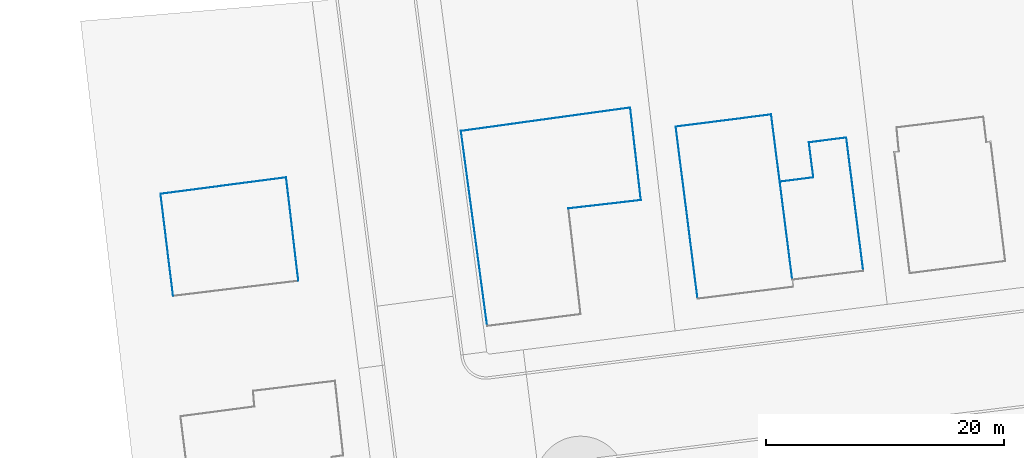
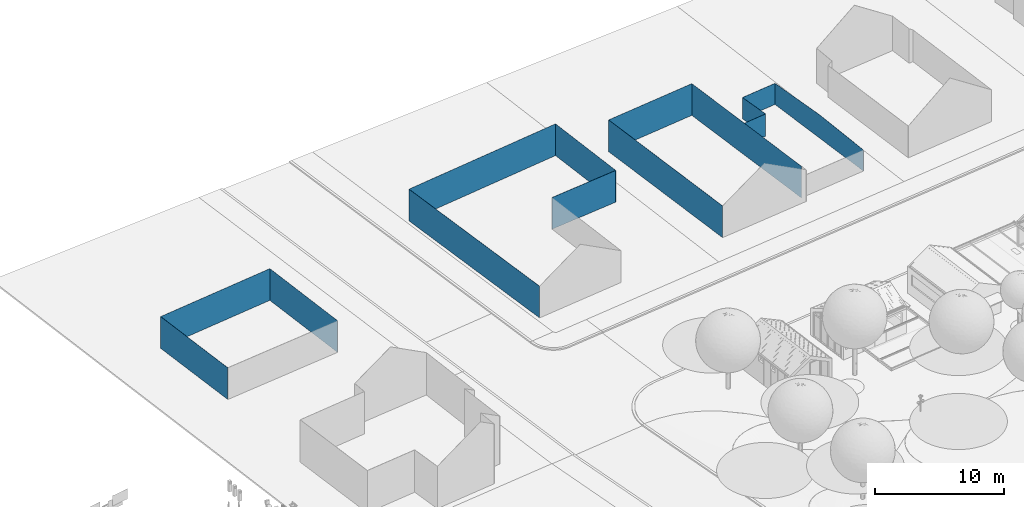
# One storey, part 34 of 75: 14 walls.
"""IFC2X3 building model written with IfcOpenShell, lengths in metres."""

from ifc_helpers import new_model, entity, si_unit, converted_unit, derived_unit, direction, frame, frame_2d, origin, place, context, subcontext, project, spatial, polyline, rectangle, outline, extrude, clip, bounded_halfspace, material, layer, layer_set, layer_usage, type_object, element, save


model = new_model("IFC2X3")

# Units and contexts
model_context = context("Model", 3, precision=1e-05, world=origin(), true_north=direction((6.123031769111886e-17, 1.0)))
body_context = subcontext(model_context, "Body", "Model", "MODEL_VIEW")
ifc_project = project(units=[si_unit("LENGTHUNIT", "METRE"), si_unit("AREAUNIT", "SQUARE_METRE"), si_unit("VOLUMEUNIT", "CUBIC_METRE"), converted_unit("PLANEANGLEUNIT", "DEGREE", entity("IfcRatioMeasure", 0.017453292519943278), si_unit("PLANEANGLEUNIT", "RADIAN"), dimensions=[0, 0, 0, 0, 0, 0, 0]), si_unit("MASSUNIT", "GRAM", prefix="KILO"), derived_unit("MASSDENSITYUNIT", [(si_unit("MASSUNIT", "GRAM", prefix="KILO"), 1), (si_unit("LENGTHUNIT", "METRE"), -3)]), derived_unit("IONCONCENTRATIONUNIT", [(si_unit("MASSUNIT", "GRAM", prefix="KILO"), 1), (si_unit("LENGTHUNIT", "METRE"), -3)]), derived_unit("MOMENTOFINERTIAUNIT", [(si_unit("LENGTHUNIT", "METRE"), 4)]), si_unit("TIMEUNIT", "SECOND"), si_unit("FREQUENCYUNIT", "HERTZ"), si_unit("THERMODYNAMICTEMPERATUREUNIT", "DEGREE_CELSIUS"), derived_unit("THERMALTRANSMITTANCEUNIT", [(si_unit("MASSUNIT", "GRAM", prefix="KILO"), 1), (si_unit("THERMODYNAMICTEMPERATUREUNIT", "KELVIN"), -1), (si_unit("TIMEUNIT", "SECOND"), -3)]), derived_unit("THERMALCONDUCTANCEUNIT", [(si_unit("MASSUNIT", "GRAM", prefix="KILO"), 1), (si_unit("THERMODYNAMICTEMPERATUREUNIT", "KELVIN"), -1), (si_unit("TIMEUNIT", "SECOND"), -3), (si_unit("LENGTHUNIT", "METRE"), 1)]), derived_unit("VOLUMETRICFLOWRATEUNIT", [(si_unit("LENGTHUNIT", "METRE"), 3), (si_unit("TIMEUNIT", "SECOND"), -1)]), derived_unit("MASSFLOWRATEUNIT", [(si_unit("MASSUNIT", "GRAM", prefix="KILO"), 1), (si_unit("TIMEUNIT", "SECOND"), -1)]), derived_unit("ROTATIONALFREQUENCYUNIT", [(si_unit("TIMEUNIT", "SECOND"), -1)]), si_unit("ELECTRICCURRENTUNIT", "AMPERE"), si_unit("ELECTRICVOLTAGEUNIT", "VOLT"), si_unit("POWERUNIT", "WATT"), si_unit("FORCEUNIT", "NEWTON", prefix="KILO"), si_unit("ILLUMINANCEUNIT", "LUX"), si_unit("LUMINOUSFLUXUNIT", "LUMEN"), si_unit("LUMINOUSINTENSITYUNIT", "CANDELA"), derived_unit("USERDEFINED", [(si_unit("MASSUNIT", "GRAM", prefix="KILO"), -1), (si_unit("LENGTHUNIT", "METRE"), -2), (si_unit("TIMEUNIT", "SECOND"), 3), (si_unit("LUMINOUSFLUXUNIT", "LUMEN"), 1)]), derived_unit("USERDEFINED", [(si_unit("MASSUNIT", "GRAM", prefix="KILO"), 1), (si_unit("TIMEUNIT", "SECOND"), -3), (si_unit("LENGTHUNIT", "METRE"), 3), (si_unit("ELECTRICCURRENTUNIT", "AMPERE"), -2)]), derived_unit("SOUNDPOWERUNIT", [(si_unit("MASSUNIT", "GRAM", prefix="KILO"), 1), (si_unit("TIMEUNIT", "SECOND"), -3), (si_unit("LENGTHUNIT", "METRE"), 2)]), derived_unit("SOUNDPRESSUREUNIT", [(si_unit("MASSUNIT", "GRAM", prefix="KILO"), 1), (si_unit("LENGTHUNIT", "METRE"), -1), (si_unit("TIMEUNIT", "SECOND"), -2)]), derived_unit("LINEARVELOCITYUNIT", [(si_unit("LENGTHUNIT", "METRE"), 1), (si_unit("TIMEUNIT", "SECOND"), -1)]), si_unit("PRESSUREUNIT", "PASCAL"), derived_unit("USERDEFINED", [(si_unit("MASSUNIT", "GRAM", prefix="KILO"), 1), (si_unit("LENGTHUNIT", "METRE"), -2), (si_unit("TIMEUNIT", "SECOND"), -2)]), derived_unit("LINEARFORCEUNIT", [(si_unit("MASSUNIT", "GRAM", prefix="KILO"), 1), (si_unit("TIMEUNIT", "SECOND"), -2)]), derived_unit("PLANARFORCEUNIT", [(si_unit("MASSUNIT", "GRAM", prefix="KILO"), 1), (si_unit("LENGTHUNIT", "METRE"), -1), (si_unit("TIMEUNIT", "SECOND"), -2)]), derived_unit("SPECIFICHEATCAPACITYUNIT", [(si_unit("THERMODYNAMICTEMPERATUREUNIT", "KELVIN"), -1), (si_unit("LENGTHUNIT", "METRE"), 2), (si_unit("TIMEUNIT", "SECOND"), -2)]), derived_unit("HEATINGVALUEUNIT", [(si_unit("LENGTHUNIT", "METRE"), 2), (si_unit("TIMEUNIT", "SECOND"), -2)]), derived_unit("VAPORPERMEABILITYUNIT", [(si_unit("LENGTHUNIT", "METRE"), -1), (si_unit("TIMEUNIT", "SECOND"), 1)]), derived_unit("DYNAMICVISCOSITYUNIT", [(si_unit("MASSUNIT", "GRAM", prefix="KILO"), 1), (si_unit("TIMEUNIT", "SECOND"), -1), (si_unit("LENGTHUNIT", "METRE"), -1)]), derived_unit("THERMALEXPANSIONCOEFFICIENTUNIT", [(si_unit("THERMODYNAMICTEMPERATUREUNIT", "KELVIN"), -1)]), derived_unit("MODULUSOFELASTICITYUNIT", [(si_unit("MASSUNIT", "GRAM", prefix="KILO"), 1), (si_unit("LENGTHUNIT", "METRE"), -1), (si_unit("TIMEUNIT", "SECOND"), -2)]), derived_unit("ISOTHERMALMOISTURECAPACITYUNIT", [(si_unit("LENGTHUNIT", "METRE"), 3), (si_unit("MASSUNIT", "GRAM", prefix="KILO"), -1)]), derived_unit("MOISTUREDIFFUSIVITYUNIT", [(si_unit("TIMEUNIT", "SECOND"), -1), (si_unit("LENGTHUNIT", "METRE"), 2)])], contexts=[model_context])

# Site, building, storey
site_placement = place(None, origin())
site = spatial("IfcSite", under=ifc_project, at=site_placement, Name="Default", CompositionType="ELEMENT")
building_placement = place(site_placement, origin())
building = spatial("IfcBuilding", under=site, at=building_placement, Name="Projeto", CompositionType="ELEMENT")
storey_placement = place(building_placement, origin())
storey = spatial("IfcBuildingStorey", under=building, at=storey_placement, Name="Nível 1", CompositionType="ELEMENT", Elevation=0.0)

# Walls
ifc_material = material(Name="Metal")
ifc_layer = layer(ifc_material, 0.01)
ifc_layer_set = layer_set([ifc_layer], Name="Parede básica:JA_Aluminio")
ifc_layer_usage = layer_usage(ifc_layer_set, "AXIS2", "NEGATIVE", 0.005)
wall_type = type_object("IfcWallType", Name="Parede básica:JA_Aluminio", PredefinedType="STANDARD", material=ifc_layer_set)
wall_1_placement = place(storey_placement, frame((-5.1115404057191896, 63.52451262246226, -2.6), z_axis=(0.0, 0.0, 1.0), x_axis=(0.12649137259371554, -0.9919677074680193, 0.0)))
element("IfcWallStandardCase", 1, at=wall_1_placement, inside=storey, type_object=wall_type, material=ifc_layer_usage, Name="Parede básica:JA_Aluminio", ObjectType="Parede básica:JA_Aluminio", context=body_context, shape_type="Clipping", body=[
    clip(extrude(outline(polyline([(14.026625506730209, -0.005000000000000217), (14.02665717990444, 0.004999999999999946), (14.016657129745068, 0.005000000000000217), (5.703756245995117, 0.005000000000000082), (5.693756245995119, 0.004999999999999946), (0.0, 0.004999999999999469), (0.0, -0.00500000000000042), (14.026625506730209, -0.005000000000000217)])), origin(), (0.0, 0.0, 1.0), 3.0057735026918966), bounded_halfspace(frame((0.0, -0.004999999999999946, 3.0057735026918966), z_axis=(0.0, 0.5000000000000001, 0.8660254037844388), x_axis=(-1.0, 0.0, 0.0)), False, frame((0.0, -0.004999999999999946, 3.0057735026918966)), polyline([(0.0, 0.0), (14.026625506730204, 0.0), (14.026657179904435, 0.009999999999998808), (0.0, 0.009999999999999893), (0.0, 0.0)]))),
])
wall_2_placement = place(storey_placement, frame((-4.385737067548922, 57.8721629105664, -2.6), z_axis=(0.0, 0.0, 1.0), x_axis=(0.9919677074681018, 0.1264913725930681, 0.0)))
element("IfcWallStandardCase", 2, at=wall_2_placement, inside=storey, type_object=wall_type, material=ifc_layer_usage, Name="Parede básica:JA_Aluminio", ObjectType="Parede básica:JA_Aluminio", context=body_context, shape_type="Clipping", body=[
    clip(extrude(rectangle(XDim=2.8520364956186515, YDim=0.009999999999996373, at=frame_2d((1.4260182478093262, 2.6150956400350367e-16), x_axis=(-1.0, 0.0))), origin(), (0.0, 0.0, 1.0), 2.1041469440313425), bounded_halfspace(frame((0.0, -0.005000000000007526, 2.104146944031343), z_axis=(0.0, 0.034899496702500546, 0.9993908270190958), x_axis=(-1.0, 0.0, 0.0)), False, frame((0.0, -0.005000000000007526, 2.104146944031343)), polyline([(0.0, 0.0), (2.8520364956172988, 0.0), (2.852036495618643, 0.009999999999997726), (2.8420364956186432, 0.009999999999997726), (0.0, 0.009999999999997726), (0.0, 0.0)]))),
])
wall_3_placement = place(storey_placement, frame((-1.56220125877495, 58.237248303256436, -2.6), z_axis=(0.0, 0.0, 1.0), x_axis=(-0.12649137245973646, 0.9919677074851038, 0.0)))
element("IfcWallStandardCase", 3, at=wall_3_placement, inside=storey, type_object=wall_type, material=ifc_layer_usage, Name="Parede básica:JA_Aluminio", ObjectType="Parede básica:JA_Aluminio", context=body_context, shape_type="Clipping", body=[
    clip(extrude(rectangle(XDim=2.972378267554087, YDim=0.010000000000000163, at=frame_2d((1.4861891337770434, -7.589415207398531e-17), x_axis=(-1.0, 0.0))), origin(), (0.0, 0.0, 1.0), 2.103797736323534), bounded_halfspace(frame((0.0, -0.005000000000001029, 2.103797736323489), z_axis=(0.034899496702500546, 0.0, 0.9993908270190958), x_axis=(0.0, 1.0, 0.0)), False, frame((0.0, -0.005000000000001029, 2.103797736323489)), polyline([(0.0, 0.0), (2.9623782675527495, 0.0), (2.9723782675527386, 0.0), (2.9723782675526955, 0.010000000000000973), (0.0, 0.009999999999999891), (0.0, 0.0)]))),
])
wall_4_placement = place(storey_placement, frame((-1.9325891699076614, 61.18142417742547, -2.6), z_axis=(0.0, 0.0, 1.0), x_axis=(0.9919677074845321, 0.12649137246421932, 0.0)))
element("IfcWallStandardCase", 4, at=wall_4_placement, inside=storey, type_object=wall_type, material=ifc_layer_usage, Name="Parede básica:JA_Aluminio", ObjectType="Parede básica:JA_Aluminio", context=body_context, shape_type="Clipping", body=[
    clip(extrude(rectangle(XDim=3.1748265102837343, YDim=0.010000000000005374, at=frame_2d((1.5874132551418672, 1.902557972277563e-15), x_axis=(-1.0, 0.0))), origin(), (0.0, 0.0, 1.0), 2.000349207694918), bounded_halfspace(frame((0.0, -0.004999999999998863, 2.0003492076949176), z_axis=(0.0, 0.034899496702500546, 0.9993908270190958), x_axis=(-1.0, 0.0, 0.0)), False, frame((0.0, -0.004999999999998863, 2.0003492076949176)), polyline([(0.0, 0.0), (3.164826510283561, 0.0), (3.1748265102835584, 0.0), (3.1748265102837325, 0.009999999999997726), (0.0, 0.009999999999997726), (0.0, 0.0)]))),
])
wall_5_placement = place(storey_placement, frame((1.2124088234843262, 61.57742004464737, -2.6), z_axis=(0.0, 0.0, 1.0), x_axis=(0.12649137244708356, -0.9919677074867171, 0.0)))
element("IfcWallStandardCase", 5, at=wall_5_placement, inside=storey, type_object=wall_type, material=ifc_layer_usage, Name="Parede básica:JA_Aluminio", ObjectType="Parede básica:JA_Aluminio", context=body_context, shape_type="Clipping", body=[
    clip(clip(extrude(outline(polyline([(11.314336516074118, -0.004999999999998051), (11.314368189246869, 0.005000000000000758), (0.0, 0.005000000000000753), (0.0, -0.004999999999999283), (11.304336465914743, -0.004999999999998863), (11.314336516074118, -0.004999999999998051)])), origin(), (0.0, 0.0, 1.0), 2.1977273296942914), bounded_halfspace(frame((0.0, -0.004999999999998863, 2.0003492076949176), z_axis=(-0.03489949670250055, 0.0, 0.9993908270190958), x_axis=(0.0, -1.0, 0.0)), False, frame((0.0, -0.004999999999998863, 2.0003492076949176)), polyline([(0.0, 0.0), (5.652154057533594, 0.0), (5.6521698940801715, 0.00999999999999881), (0.0, 0.009999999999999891), (0.0, 0.0)]))), bounded_halfspace(frame((5.652154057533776, -0.004999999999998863, 2.1977267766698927), z_axis=(0.03489932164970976, -0.00011053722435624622, 0.9993908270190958), x_axis=(0.003167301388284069, 0.9999949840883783, 0.0)), False, frame((5.652154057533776, -0.004999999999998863, 2.1977267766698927)), polyline([(0.0, 0.0), (5.652182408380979, 0.0), (5.662182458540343, 0.0), (5.6622141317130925, 0.009999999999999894), (1.583654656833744e-05, 0.009999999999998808), (0.0, 0.0)]))),
])
wall_6_placement = place(storey_placement, frame((-11.31182921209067, 48.02234423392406, -2.6), z_axis=(0.0, 0.0, 1.0), x_axis=(-0.12587142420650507, 0.9920465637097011, 0.0)))
element("IfcWallStandardCase", 6, at=wall_6_placement, inside=storey, type_object=wall_type, material=ifc_layer_usage, Name="Parede básica:JA_Aluminio", ObjectType="Parede básica:JA_Aluminio", context=body_context, shape_type="Clipping", body=[
    clip(clip(extrude(outline(polyline([(14.603373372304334, -0.004999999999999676), (14.603367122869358, 0.0050000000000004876), (2.542368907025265e-05, 0.00500000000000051), (0.0, -0.004999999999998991), (14.593373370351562, -0.004999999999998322), (14.603373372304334, -0.004999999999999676)])), origin(), (0.0, 0.0, 1.0), 3.005773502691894), bounded_halfspace(frame((0.0, -0.004999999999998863, 3.0057735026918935), z_axis=(0.0, 0.4999999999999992, 0.8660254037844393), x_axis=(-1.0, 0.0, 0.0)), False, frame((0.0, -0.004999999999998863, 3.0057735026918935)), polyline([(0.0, 0.0), (14.593373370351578, 0.0), (14.603367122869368, 0.010000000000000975), (2.542368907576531e-05, 0.009999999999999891), (0.0, 0.0)]))), bounded_halfspace(frame((14.593373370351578, -0.004999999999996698, 3.0057735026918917), z_axis=(0.4999999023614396, 0.00031247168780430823, 0.866025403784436), x_axis=(-0.0006249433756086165, 0.9999998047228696, 0.0)), False, frame((14.593373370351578, -0.004999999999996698, 3.0057735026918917)), polyline([(0.0, 0.0), (0.010000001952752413, 0.0), (0.009993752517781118, 0.009999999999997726), (0.0, 0.0)]))),
])
wall_7_placement = place(storey_placement, frame((-13.144390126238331, 62.50523933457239, -2.6), z_axis=(0.0, 0.0, 1.0), x_axis=(0.9919677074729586, 0.12649137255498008, 0.0)))
element("IfcWallStandardCase", 7, at=wall_7_placement, inside=storey, type_object=wall_type, material=ifc_layer_usage, Name="Parede básica:JA_Aluminio", ObjectType="Parede básica:JA_Aluminio", context=body_context, shape_type="Clipping", body=[
    clip(clip(extrude(outline(polyline([(8.102256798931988, -0.004999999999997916), (8.102256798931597, 0.00499999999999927), (6.2494349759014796e-06, 0.004999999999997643), (0.0, -0.0049999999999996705), (8.092256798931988, -0.004999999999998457), (8.102256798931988, -0.004999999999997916)])), origin(), (0.0, 0.0, 1.0), 3.005773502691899), bounded_halfspace(frame((0.0, -0.004999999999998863, 3.005773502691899), z_axis=(0.0, 0.5000000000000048, 0.866025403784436), x_axis=(-1.0, 0.0, 0.0)), False, frame((0.0, -0.004999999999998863, 3.005773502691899)), polyline([(0.0, 0.0), (8.09225679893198, 0.0), (8.102256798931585, 0.01000000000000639), (6.249434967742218e-06, 0.009999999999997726), (0.0, 0.0)]))), bounded_halfspace(frame((8.092256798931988, -0.004999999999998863, 3.0057735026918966), z_axis=(0.5000000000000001, 0.0, 0.8660254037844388), x_axis=(0.0, 1.0, 0.0)), False, frame((8.092256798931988, -0.004999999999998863, 3.0057735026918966)), polyline([(0.0, 0.0), (0.009999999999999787, 0.0), (0.009999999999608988, 0.01000000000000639), (0.0, 0.0)]))),
])
wall_8_placement = place(storey_placement, frame((-31.233866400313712, 62.1429275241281, -2.6), z_axis=(0.0, 0.0, 1.0), x_axis=(0.9906395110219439, 0.13650406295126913, 0.0)))
element("IfcWallStandardCase", 8, at=wall_8_placement, inside=storey, type_object=wall_type, material=ifc_layer_usage, Name="Parede básica:JA_Aluminio", ObjectType="Parede básica:JA_Aluminio", context=body_context, shape_type="Clipping", body=[
    clip(clip(extrude(outline(polyline([(14.390688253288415, -0.004999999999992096), (14.390911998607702, 0.005000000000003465), (3.125489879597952e-05, 0.005000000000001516), (0.0, -0.004999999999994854), (14.380685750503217, -0.004999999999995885), (14.390688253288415, -0.004999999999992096)])), origin(), (0.0, 0.0, 1.0), 3.005773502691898), bounded_halfspace(frame((14.380685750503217, -0.004999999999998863, 3.005773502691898), z_axis=(0.49987489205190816, -0.011184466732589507, 0.866025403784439), x_axis=(0.022368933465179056, 0.9997497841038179, 0.0)), False, frame((14.380685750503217, -0.004999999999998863, 3.005773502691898)), polyline([(0.0, 0.0), (0.010002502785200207, 0.0), (0.010226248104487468, 0.01000000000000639), (0.0, 0.0)]))), bounded_halfspace(frame((0.0, -0.004999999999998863, 3.0057735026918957), z_axis=(0.0, 0.5000000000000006, 0.8660254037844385), x_axis=(-1.0, 0.0, 0.0)), False, frame((0.0, -0.004999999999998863, 3.0057735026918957)), polyline([(0.0, 0.0), (14.380685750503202, 0.0), (14.390911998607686, 0.010000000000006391), (3.125489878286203e-05, 0.009999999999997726), (0.0, 0.0)]))),
])
wall_9_placement = place(storey_placement, frame((-16.982166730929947, 64.10179019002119, -2.6), z_axis=(0.0, 0.0, 1.0), x_axis=(0.1143103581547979, -0.9934450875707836, 0.0)))
element("IfcWallStandardCase", 9, at=wall_9_placement, inside=storey, type_object=wall_type, material=ifc_layer_usage, Name="Parede básica:JA_Aluminio", ObjectType="Parede básica:JA_Aluminio", context=body_context, shape_type="Clipping", body=[
    clip(clip(extrude(outline(polyline([(7.838079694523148, -0.005000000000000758), (7.838079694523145, 0.0050000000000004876), (0.0, 0.00499999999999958), (0.0002237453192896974, -0.005000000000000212), (7.828079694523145, -0.005000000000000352), (7.838079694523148, -0.005000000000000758)])), origin(), (0.0, 0.0, 1.0), 3.0057735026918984), bounded_halfspace(frame((7.82807969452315, -0.005000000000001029, 3.0057735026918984), z_axis=(0.5000000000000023, 0.0, 0.8660254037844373), x_axis=(0.0, 1.0, 0.0)), False, frame((7.82807969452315, -0.005000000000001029, 3.0057735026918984)), polyline([(0.0, 0.0), (0.00999999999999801, 0.0), (0.009999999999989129, 0.010000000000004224), (0.0, 0.0)]))), bounded_halfspace(frame((0.00022374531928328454, -0.005000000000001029, 3.0057735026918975), z_axis=(0.0, 0.4999999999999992, 0.866025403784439), x_axis=(-1.0, 0.0, 0.0)), False, frame((0.00022374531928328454, -0.005000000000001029, 3.0057735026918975)), polyline([(0.0, 0.0), (7.827855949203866, 0.0), (7.837855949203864, 0.010000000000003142), (-0.00022374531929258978, 0.010000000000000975), (0.0, 0.0)]))),
])
wall_10_placement = place(storey_placement, frame((-16.091731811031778, 56.319484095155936, -2.6), z_axis=(0.0, 0.0, 1.0), x_axis=(-0.9934450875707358, -0.11431035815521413, 0.0)))
element("IfcWallStandardCase", 10, at=wall_10_placement, inside=storey, type_object=wall_type, material=ifc_layer_usage, Name="Parede básica:JA_Aluminio", ObjectType="Parede básica:JA_Aluminio", context=body_context, shape_type="Clipping", body=[
    clip(clip(extrude(rectangle(XDim=6.140349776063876, YDim=0.009999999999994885, at=frame_2d((3.070174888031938, -3.655929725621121e-16), x_axis=(-1.0, 0.0))), origin(), (0.0, 0.0, 1.0), 3.005773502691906), bounded_halfspace(frame((6.140349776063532, -0.0049999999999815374, 3.0057735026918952), z_axis=(-0.5000000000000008, 0.0, 0.8660254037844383), x_axis=(0.0, -1.0, 0.0)), False, frame((6.140349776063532, -0.0049999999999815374, 3.0057735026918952)), polyline([(0.0, 0.0), (0.0, 0.0099999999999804), (-0.009999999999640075, 0.009999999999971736), (0.0, 0.0)]))), bounded_halfspace(frame((0.0, -0.005000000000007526, 3.005773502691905), z_axis=(0.0, 0.5000000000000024, 0.8660254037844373), x_axis=(-1.0, 0.0, 0.0)), False, frame((0.0, -0.005000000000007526, 3.005773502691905)), polyline([(0.0, 0.0), (6.1403497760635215, 0.0), (6.130349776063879, 0.00999999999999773), (0.0, 0.01000000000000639), (0.0, 0.0)]))),
])
wall_11_placement = place(storey_placement, frame((-29.028621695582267, 45.723143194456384, -2.6), z_axis=(0.0, 0.0, 1.0), x_axis=(-0.1334071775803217, 0.9910613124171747, 0.0)))
element("IfcWallStandardCase", 11, at=wall_11_placement, inside=storey, type_object=wall_type, material=ifc_layer_usage, Name="Parede básica:JA_Aluminio", ObjectType="Parede básica:JA_Aluminio", context=body_context, shape_type="Clipping", body=[
    clip(clip(extrude(outline(polyline([(16.57220855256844, -0.004999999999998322), (16.572177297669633, 0.005000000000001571), (7.775895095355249e-05, 0.004999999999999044), (0.0, -0.005000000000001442), (16.56220850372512, -0.004999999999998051), (16.57220855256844, -0.004999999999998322)])), origin(), (0.0, 0.0, 1.0), 3.005773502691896), bounded_halfspace(frame((0.0, -0.004999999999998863, 3.005773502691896), z_axis=(0.0, 0.4999999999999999, 0.8660254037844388), x_axis=(-1.0, 0.0, 0.0)), False, frame((0.0, -0.004999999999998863, 3.005773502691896)), polyline([(0.0, 0.0), (16.562208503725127, 0.0), (16.572177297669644, 0.010000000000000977), (7.775895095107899e-05, 0.009999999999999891), (0.0, 0.0)]))), bounded_halfspace(frame((16.562208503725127, -0.004999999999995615, 3.0057735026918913), z_axis=(0.49999755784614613, 0.0015627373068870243, 0.8660254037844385), x_axis=(-0.0031254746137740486, 0.9999951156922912, 0.0)), False, frame((16.562208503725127, -0.004999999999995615, 3.0057735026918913)), polyline([(0.0, 0.0), (0.010000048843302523, 0.0), (0.009968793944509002, 0.00999999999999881), (0.0, 0.0)]))),
])
wall_12_placement = place(storey_placement, frame((-56.52675117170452, 56.84794590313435, -2.6), z_axis=(0.0, 0.0, 1.0), x_axis=(0.9915613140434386, 0.12963857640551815, 0.0)))
element("IfcWallStandardCase", 12, at=wall_12_placement, inside=storey, type_object=wall_type, material=ifc_layer_usage, Name="Parede básica:JA_Aluminio", ObjectType="Parede básica:JA_Aluminio", context=body_context, shape_type="Clipping", body=[
    clip(clip(extrude(outline(polyline([(10.664615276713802, -0.005000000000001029), (10.664740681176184, 0.004999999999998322), (8.391017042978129e-05, 0.005000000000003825), (0.0, -0.004999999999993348), (10.654614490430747, -0.004999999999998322), (10.664615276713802, -0.005000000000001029)])), origin(), (0.0, 0.0, 1.0), 3.0057735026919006), bounded_halfspace(frame((0.0, -0.004999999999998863, 3.0057735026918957), z_axis=(0.0, 0.5000000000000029, 0.8660254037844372), x_axis=(-1.0, 0.0, 0.0)), False, frame((0.0, -0.004999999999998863, 3.0057735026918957)), polyline([(0.0, 0.0), (10.65461449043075, 0.0), (10.664740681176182, 0.009999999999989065), (8.39101704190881e-05, 0.009999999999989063), (0.0, 0.0)]))), bounded_halfspace(frame((10.654614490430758, -0.005000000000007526, 3.0057735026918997), z_axis=(0.4999606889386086, -0.006269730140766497, 0.8660254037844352), x_axis=(0.012539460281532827, 0.9999213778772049, 0.0)), False, frame((10.654614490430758, -0.005000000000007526, 3.0057735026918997)), polyline([(0.0, 0.0), (0.010000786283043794, 0.0), (0.010126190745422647, 0.009999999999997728), (0.0, 0.0)]))),
])
wall_13_placement = place(storey_placement, frame((-45.956448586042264, 58.2249476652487, -2.6), z_axis=(0.0, 0.0, 1.0), x_axis=(0.1171947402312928, -0.9931089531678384, 0.0)))
element("IfcWallStandardCase", 13, at=wall_13_placement, inside=storey, type_object=wall_type, material=ifc_layer_usage, Name="Parede básica:JA_Aluminio", ObjectType="Parede básica:JA_Aluminio", context=body_context, shape_type="Clipping", body=[
    clip(clip(extrude(outline(polyline([(8.770392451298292, -0.005000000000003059), (8.770370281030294, 0.005000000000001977), (0.0, 0.005000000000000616), (0.00012540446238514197, -0.005000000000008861), (8.76039242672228, -0.005000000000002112), (8.770392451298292, -0.005000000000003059)])), origin(), (0.0, 0.0, 1.0), 3.005773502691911), bounded_halfspace(frame((8.760392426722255, -0.005000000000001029, 3.005773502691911), z_axis=(0.49999877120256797, 0.001108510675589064, 0.8660254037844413), x_axis=(-0.0022170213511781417, 0.9999975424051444, 0.0)), False, frame((8.760392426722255, -0.005000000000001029, 3.005773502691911)), polyline([(0.0, 0.0), (0.010000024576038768, 0.0), (0.009977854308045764, 0.010000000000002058), (0.0, 0.0)]))), bounded_halfspace(frame((0.00012540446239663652, -0.005000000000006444, 3.005773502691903), z_axis=(0.0, 0.5000000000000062, 0.8660254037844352), x_axis=(-1.0, 0.0, 0.0)), False, frame((0.00012540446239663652, -0.005000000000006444, 3.005773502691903)), polyline([(0.0, 0.0), (8.760267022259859, 0.0), (8.77024487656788, 0.010000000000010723), (-0.00012540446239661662, 0.010000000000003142), (0.0, 0.0)]))),
])
wall_14_placement = place(storey_placement, frame((-55.4816653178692, 48.25599251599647, -2.6), z_axis=(0.0, 0.0, 1.0), x_axis=(-0.12131409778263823, 0.9926141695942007, 0.0)))
element("IfcWallStandardCase", 14, at=wall_14_placement, inside=storey, type_object=wall_type, material=ifc_layer_usage, Name="Parede básica:JA_Aluminio", ObjectType="Parede básica:JA_Aluminio", context=body_context, shape_type="Clipping", body=[
    clip(clip(extrude(outline(polyline([(8.660278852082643, -0.004999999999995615), (8.660194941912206, 0.004999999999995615), (1.931948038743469e-05, 0.004999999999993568), (0.0, -0.005000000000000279), (8.650278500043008, -0.005000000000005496), (8.660278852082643, -0.004999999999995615)])), origin(), (0.0, 0.0, 1.0), 3.005773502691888), bounded_halfspace(frame((8.650278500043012, -0.004999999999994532, 3.0057735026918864), z_axis=(0.49998239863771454, 0.004195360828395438, 0.8660254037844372), x_axis=(-0.00839072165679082, 0.9999647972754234, 0.0)), False, frame((8.650278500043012, -0.004999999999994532, 3.0057735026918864)), polyline([(0.0, 0.0), (0.010000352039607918, 0.0), (0.009916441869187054, 0.00999999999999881), (0.0, 0.0)]))), bounded_halfspace(frame((0.0, -0.004999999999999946, 3.005773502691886), z_axis=(0.0, 0.499999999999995, 0.8660254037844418), x_axis=(-1.0, 0.0, 0.0)), False, frame((0.0, -0.004999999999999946, 3.005773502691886)), polyline([(0.0, 0.0), (8.65027850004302, 0.0), (8.660194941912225, 0.010000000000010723), (1.931948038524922e-05, 0.01000000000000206), (0.0, 0.0)]))),
])

save(model, "model.ifc")
